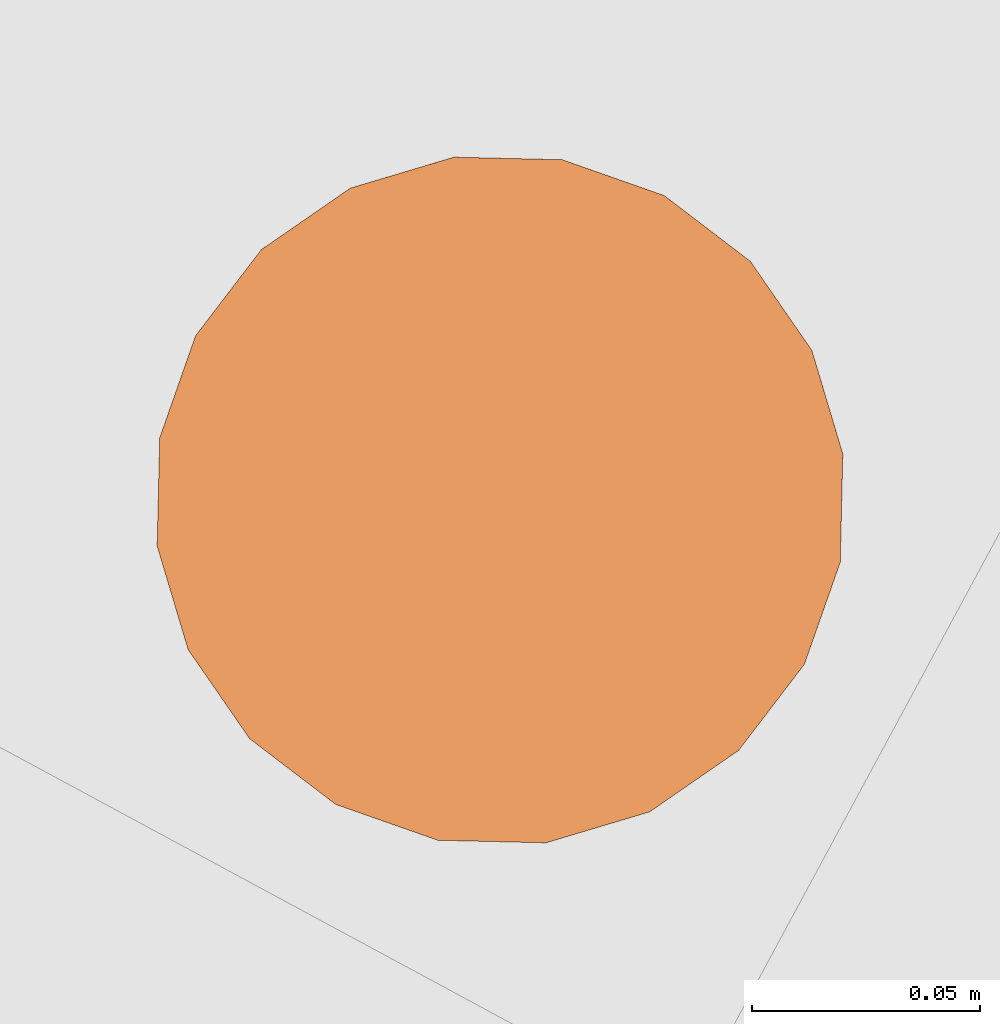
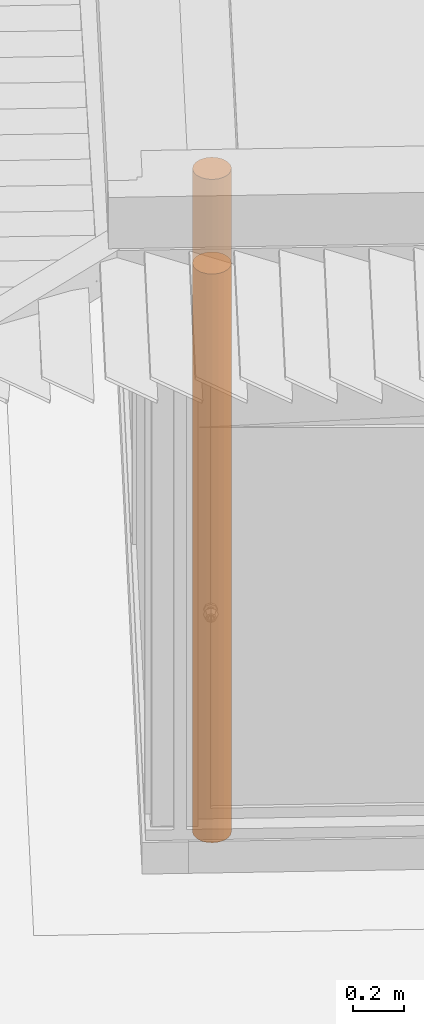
# One storey, part 40 of 48: 2 proxies.
"""IFC2X3 building model written with IfcOpenShell, lengths in metres."""

from ifc_helpers import new_model, entity, si_unit, converted_unit, derived_unit, money_unit, direction, frame, origin_with_axes, place, context, subcontext, project, spatial, faceted_brep, material, type_object, element, save


model = new_model("IFC2X3")

# Units and contexts
model_context = context("Model", 3, precision=1e-05, world=origin_with_axes(), true_north=direction((0.0, 1.0)))
body_context = subcontext(model_context, "Body", "Model", "MODEL_VIEW")
ifc_project = project(units=[si_unit("LENGTHUNIT", "METRE"), si_unit("AREAUNIT", "SQUARE_METRE"), si_unit("VOLUMEUNIT", "CUBIC_METRE"), converted_unit("PLANEANGLEUNIT", "DEGREE", entity("IfcPlaneAngleMeasure", 0.0174532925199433), si_unit("PLANEANGLEUNIT", "RADIAN"), dimensions=[0, 0, 0, 0, 0, 0, 0]), money_unit("EUR"), converted_unit("TIMEUNIT", "Year", entity("IfcTimeMeasure", 31556926.0), si_unit("TIMEUNIT", "SECOND"), dimensions=[0, 0, 1, 0, 0, 0, 0]), si_unit("MASSUNIT", "GRAM", prefix="KILO"), si_unit("THERMODYNAMICTEMPERATUREUNIT", "DEGREE_CELSIUS"), si_unit("LUMINOUSINTENSITYUNIT", "LUMEN"), si_unit("ENERGYUNIT", "JOULE", prefix="MEGA"), derived_unit("THERMALCONDUCTANCEUNIT", [(si_unit("POWERUNIT", "WATT"), 1), (si_unit("LENGTHUNIT", "METRE"), -1), (si_unit("THERMODYNAMICTEMPERATUREUNIT", "KELVIN"), -1)]), derived_unit("SPECIFICHEATCAPACITYUNIT", [(si_unit("ENERGYUNIT", "JOULE"), 1), (si_unit("MASSUNIT", "GRAM", prefix="KILO"), -1), (si_unit("THERMODYNAMICTEMPERATUREUNIT", "KELVIN"), -1)]), derived_unit("MASSDENSITYUNIT", [(si_unit("MASSUNIT", "GRAM", prefix="KILO"), 1), (si_unit("VOLUMEUNIT", "CUBIC_METRE"), -1)])], contexts=[model_context])

# Site, building, storey
site_placement = place(None, frame((-3.949935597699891, 1.740105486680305, 0.0), z_axis=(0.0, 0.0, 1.0), x_axis=(0.8799804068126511, -0.475009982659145, 0.0)))
site = spatial("IfcSite", under=ifc_project, at=site_placement, Name="Gelände", CompositionType="ELEMENT")
building_placement = place(site_placement, origin_with_axes())
building = spatial("IfcBuilding", under=site, at=building_placement, Name="Gebäude", CompositionType="ELEMENT")
storey_placement = place(building_placement, frame((0.0, 0.0, 4.55), z_axis=(0.0, 0.0, 1.0), x_axis=(1.0, 0.0, 0.0)))
storey = spatial("IfcBuildingStorey", under=building, at=storey_placement, Name="Staffelgeschoss", CompositionType="ELEMENT", Elevation=4.55)

# Proxies
ifc_material_1 = material(Name="Metall, Edelstahl")
building_element_proxy_type_1 = type_object("IfcBuildingElementProxyType", Name="Metall, Edelstahl D152", PredefinedType="NOTDEFINED")
proxy_1_placement = place(storey_placement, frame((5.497480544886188, 1.52499043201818, -0.1499999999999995), z_axis=(0.0, 0.0, 1.0), x_axis=(1.0, 0.0, 0.0)))
element("IfcBuildingElementProxy", 1, at=proxy_1_placement, inside=storey, type_object=building_element_proxy_type_1, material=ifc_material_1, Name="Stütze-003", context=body_context, shape_type="Brep", body=[
    faceted_brep([(-0.07599999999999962, 0.0, 2.703999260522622), (-0.07599999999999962, 0.0, 0.0), (-0.07228029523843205, -0.0234852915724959, 0.0), (-0.07228029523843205, -0.0234852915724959, 2.703999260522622), (-0.07228029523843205, 0.02348529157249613, 2.703999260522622), (-0.07228029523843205, 0.02348529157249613, 0.0), (-0.06148529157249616, 0.04467167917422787, 0.0), (-0.0446716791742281, 0.06148529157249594, 0.0), (-0.0234852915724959, 0.0722802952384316, 0.0), (0.0, 0.07600000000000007, 0.0), (0.0234852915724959, 0.0722802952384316, 0.0), (0.0446716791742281, 0.06148529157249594, 0.0), (0.06148529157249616, 0.04467167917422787, 0.0), (0.07228029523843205, 0.0234852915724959, 0.0), (0.07599999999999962, 0.0, 0.0), (0.07228029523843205, -0.02348529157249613, 0.0), (0.06148529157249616, -0.04467167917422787, 0.0), (0.0446716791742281, -0.06148529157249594, 0.0), (0.0234852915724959, -0.0722802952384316, 0.0), (0.0, -0.07600000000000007, 0.0), (-0.0234852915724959, -0.0722802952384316, 0.0), (-0.0446716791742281, -0.06148529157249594, 0.0), (-0.06148529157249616, -0.04467167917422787, 0.0), (-0.06148529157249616, -0.04467167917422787, 2.703999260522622), (-0.0446716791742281, -0.06148529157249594, 2.703999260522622), (-0.0234852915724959, -0.0722802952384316, 2.703999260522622), (0.0, -0.07600000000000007, 2.703999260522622), (0.0234852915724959, -0.0722802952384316, 2.703999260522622), (0.0446716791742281, -0.06148529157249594, 2.703999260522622), (0.06148529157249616, -0.04467167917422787, 2.703999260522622), (0.07228029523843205, -0.02348529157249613, 2.703999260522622), (0.07599999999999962, 0.0, 2.703999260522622), (0.07228029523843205, 0.0234852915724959, 2.703999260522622), (0.06148529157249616, 0.04467167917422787, 2.703999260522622), (0.0446716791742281, 0.06148529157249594, 2.703999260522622), (0.0234852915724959, 0.0722802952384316, 2.703999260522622), (0.0, 0.07600000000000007, 2.703999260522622), (-0.0234852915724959, 0.0722802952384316, 2.703999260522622), (-0.0446716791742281, 0.06148529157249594, 2.703999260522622), (-0.06148529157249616, 0.04467167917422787, 2.703999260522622)], [[[0, 1, 2, 3]], [[4, 5, 1, 0]], [[2, 1, 5, 6, 7, 8, 9, 10, 11, 12, 13, 14, 15, 16, 17, 18, 19, 20, 21, 22]], [[3, 2, 22, 23]], [[4, 0, 3, 23, 24, 25, 26, 27, 28, 29, 30, 31, 32, 33, 34, 35, 36, 37, 38, 39]], [[39, 6, 5, 4]], [[38, 7, 6, 39]], [[37, 8, 7, 38]], [[36, 9, 8, 37]], [[35, 10, 9, 36]], [[34, 11, 10, 35]], [[33, 12, 11, 34]], [[32, 13, 12, 33]], [[31, 14, 13, 32]], [[30, 15, 14, 31]], [[29, 16, 15, 30]], [[28, 17, 16, 29]], [[27, 18, 17, 28]], [[26, 19, 18, 27]], [[25, 20, 19, 26]], [[24, 21, 20, 25]], [[23, 22, 21, 24]]]),
])
ifc_material_2 = material(Name="Metall, Stahl lackiert")
building_element_proxy_type_2 = type_object("IfcBuildingElementProxyType", Name="Metall, Stahl lackiert D152", PredefinedType="NOTDEFINED")
proxy_2_placement = place(storey_placement, frame((5.497480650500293, 1.524987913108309, -0.1499999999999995), z_axis=(0.0, 0.0, 1.0), x_axis=(1.0, 0.0, 0.0)))
element("IfcBuildingElementProxy", 2, at=proxy_2_placement, inside=storey, type_object=building_element_proxy_type_2, material=ifc_material_2, Name="Stütze-004", context=body_context, shape_type="Brep", body=[
    faceted_brep([(-0.07599999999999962, 0.0, 3.154000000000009), (-0.07599999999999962, 0.0, 0.0), (-0.07228029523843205, -0.0234852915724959, 0.0), (-0.07228029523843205, -0.0234852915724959, 3.154000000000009), (-0.07228029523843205, 0.02348529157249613, 3.154000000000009), (-0.07228029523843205, 0.02348529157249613, 0.0), (-0.06148529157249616, 0.04467167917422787, 0.0), (-0.0446716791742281, 0.06148529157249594, 0.0), (-0.0234852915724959, 0.0722802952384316, 0.0), (0.0, 0.07600000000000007, 0.0), (0.0234852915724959, 0.0722802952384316, 0.0), (0.0446716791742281, 0.06148529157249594, 0.0), (0.06148529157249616, 0.04467167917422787, 0.0), (0.07228029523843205, 0.0234852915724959, 0.0), (0.07599999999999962, 0.0, 0.0), (0.07228029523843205, -0.02348529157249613, 0.0), (0.06148529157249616, -0.04467167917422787, 0.0), (0.0446716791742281, -0.06148529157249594, 0.0), (0.0234852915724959, -0.0722802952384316, 0.0), (0.0, -0.07600000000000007, 0.0), (-0.0234852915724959, -0.0722802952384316, 0.0), (-0.0446716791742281, -0.06148529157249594, 0.0), (-0.06148529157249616, -0.04467167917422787, 0.0), (-0.06148529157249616, -0.04467167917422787, 3.154000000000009), (-0.0446716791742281, -0.06148529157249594, 3.154000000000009), (-0.0234852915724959, -0.0722802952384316, 3.154000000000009), (0.0, -0.07600000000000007, 3.154000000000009), (0.0234852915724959, -0.0722802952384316, 3.154000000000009), (0.0446716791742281, -0.06148529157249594, 3.154000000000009), (0.06148529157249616, -0.04467167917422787, 3.154000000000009), (0.07228029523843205, -0.02348529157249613, 3.154000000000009), (0.07599999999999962, 0.0, 3.154000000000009), (0.07228029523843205, 0.0234852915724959, 3.154000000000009), (0.06148529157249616, 0.04467167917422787, 3.154000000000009), (0.0446716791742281, 0.06148529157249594, 3.154000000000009), (0.0234852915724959, 0.0722802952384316, 3.154000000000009), (0.0, 0.07600000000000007, 3.154000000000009), (-0.0234852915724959, 0.0722802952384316, 3.154000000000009), (-0.0446716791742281, 0.06148529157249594, 3.154000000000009), (-0.06148529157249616, 0.04467167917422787, 3.154000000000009)], [[[0, 1, 2, 3]], [[4, 5, 1, 0]], [[2, 1, 5, 6, 7, 8, 9, 10, 11, 12, 13, 14, 15, 16, 17, 18, 19, 20, 21, 22]], [[3, 2, 22, 23]], [[4, 0, 3, 23, 24, 25, 26, 27, 28, 29, 30, 31, 32, 33, 34, 35, 36, 37, 38, 39]], [[39, 6, 5, 4]], [[38, 7, 6, 39]], [[37, 8, 7, 38]], [[36, 9, 8, 37]], [[35, 10, 9, 36]], [[34, 11, 10, 35]], [[33, 12, 11, 34]], [[32, 13, 12, 33]], [[31, 14, 13, 32]], [[30, 15, 14, 31]], [[29, 16, 15, 30]], [[28, 17, 16, 29]], [[27, 18, 17, 28]], [[26, 19, 18, 27]], [[25, 20, 19, 26]], [[24, 21, 20, 25]], [[23, 22, 21, 24]]]),
])

save(model, "model.ifc")
